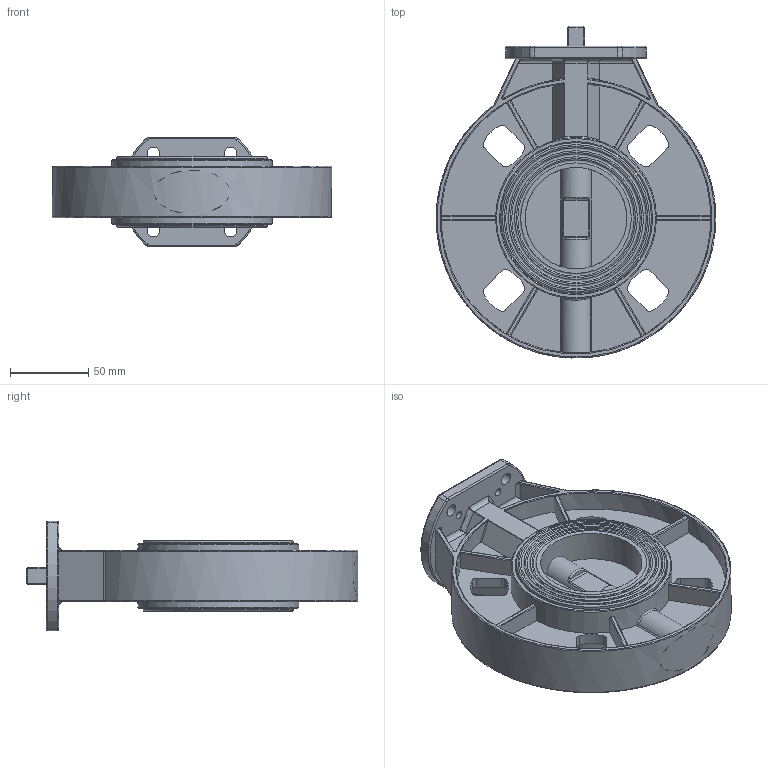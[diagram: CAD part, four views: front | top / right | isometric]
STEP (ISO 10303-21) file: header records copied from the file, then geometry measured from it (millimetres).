
FILE_DESCRIPTION(('STEP AP242'), '1');
FILE_NAME('WBV4242E-2W-Fb-ISO 青蜮铕 滂耜钼 DN.ru 捏65 畜10', '', ('UNSPECIFIED'), ('UNSPECIFIED'), 'C3D Converter', 'C3D Toolkit', '');
FILE_SCHEMA(('AP242_MANAGED_MODEL_BASED_3D_ENGINEERING_MIM_LF { 1 0 10303 442 1 1 4 }'));
Length unit declared in the file: millimetre
Products named in the file (1): WBV4242E-2W-Fb-ISO
Bounding box: 178.97 x 212.49 x 70 mm (x, y, z)
Volume: 496132.6 mm3; surface area: 155193.1 mm2
Topology: 1 solids, 5 shells, 451 faces, 1113 edges, 697 vertices
Faces by surface type: plane 169, cylinder 141, torus 65, bspline 49, cone 25, sphere 2
Full cylindrical faces by diameter (mm): 2.224 x2, 2.5 x2, 3 x2, 5 x4, 8 x4, 20 x2, 34.6 x1, 35 x1, 65 x2, 96.2 x1, 97 x1, 103 x2
Entity records: 32039 total; most frequent: CARTESIAN_POINT 18335, ORIENTED_EDGE 2094, DIRECTION 1966, EDGE_CURVE 1047, AXIS2_PLACEMENT_3D 794, VERTEX_POINT 695, EDGE_LOOP 560, FACE_BOUND 486
